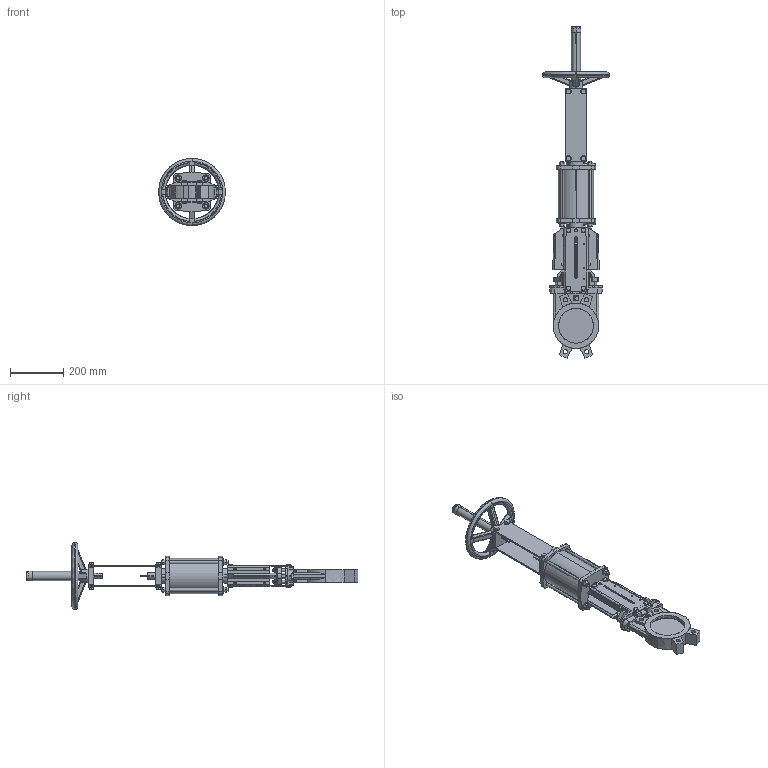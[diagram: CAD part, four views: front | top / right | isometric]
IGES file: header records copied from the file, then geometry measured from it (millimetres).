
Start section: SolidWorks IGES file using analytic representation for surfaces
Global section: file name: D:\part\3D Projects\VG-DOUBLE ACTING(DN50-450)\VG D DN125\VG D DN125.IGS; native system: SolidWorks 2009; preprocessor: SolidWorks 2009; author: zhixin.zheng; date: 100127.154233; units: millimetre
Bounding box: 250 x 1242.53 x 250 mm (x, y, z)
Surface area: 975427.3 mm2 (no closed solid volume)
Topology: 0 solids, 0 shells, 1439 faces, 16054 edges, 16054 vertices
Faces by surface type: bspline 924, revolution 515
